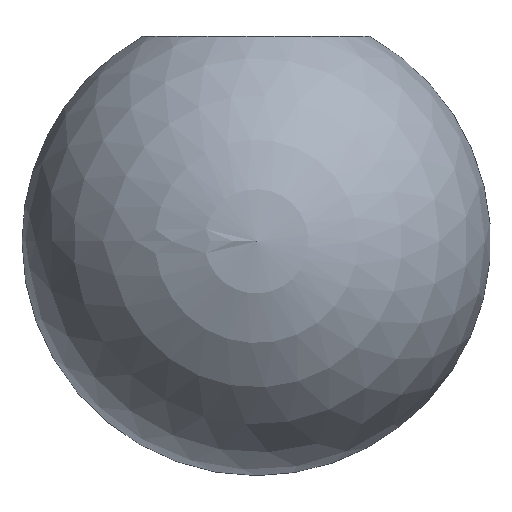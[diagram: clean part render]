
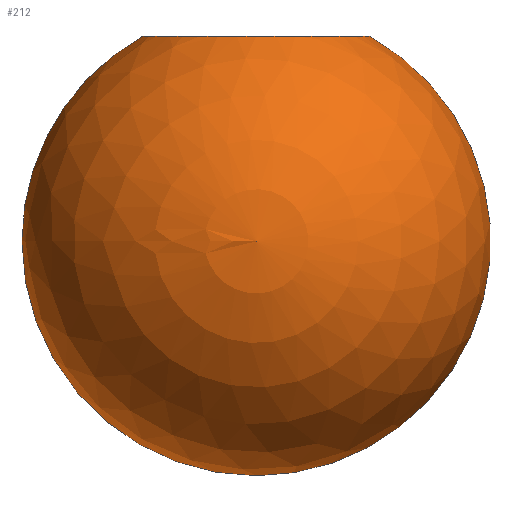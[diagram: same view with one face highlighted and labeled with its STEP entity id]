
A CAD part, left-side view. The second image highlights one B-rep face of the part: STEP entity #212.
In plain terms, the highlighted spherical face has radius 8 mm.
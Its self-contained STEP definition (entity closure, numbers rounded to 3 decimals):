
#1 = VERTEX_POINT ( 'NONE', #405 ) ;
#13 = CARTESIAN_POINT ( 'NONE',  ( 0., 0., -7. ) ) ;
#19 = DIRECTION ( 'NONE',  ( -1., 0., 0. ) ) ;
#38 = CIRCLE ( 'NONE', #416, 8. ) ;
#59 = CIRCLE ( 'NONE', #532, 8. ) ;
#64 = SPHERICAL_SURFACE ( 'NONE', #549, 8. ) ;
#106 = ORIENTED_EDGE ( 'NONE', *, *, #263, .F. ) ;
#115 = EDGE_CURVE ( 'NONE', #530, #1, #59, .T. ) ;
#131 = DIRECTION ( 'NONE',  ( 1., 0., 0. ) ) ;
#141 = DIRECTION ( 'NONE',  ( 0., 0., 1. ) ) ;
#156 = ORIENTED_EDGE ( 'NONE', *, *, #373, .T. ) ;
#188 = DIRECTION ( 'NONE',  ( 0., 1., 0. ) ) ;
#212 = ADVANCED_FACE ( 'NONE', ( #324 ), #64, .T. ) ;
#237 = CARTESIAN_POINT ( 'NONE',  ( 0., 0., -7. ) ) ;
#262 = DIRECTION ( 'NONE',  ( 0., 0., -1. ) ) ;
#263 = EDGE_CURVE ( 'NONE', #1, #336, #528, .T. ) ;
#270 = AXIS2_PLACEMENT_3D ( 'NONE', #514, #141, #329 ) ;
#273 = DIRECTION ( 'NONE',  ( -1., 0., 0. ) ) ;
#324 = FACE_OUTER_BOUND ( 'NONE', #437, .T. ) ;
#329 = DIRECTION ( 'NONE',  ( 1., 0., 0. ) ) ;
#336 = VERTEX_POINT ( 'NONE', #464 ) ;
#373 = EDGE_CURVE ( 'NONE', #530, #336, #38, .T. ) ;
#400 = CARTESIAN_POINT ( 'NONE',  ( 0., 0., -15. ) ) ;
#405 = CARTESIAN_POINT ( 'NONE',  ( 0., 3.873, 0. ) ) ;
#416 = AXIS2_PLACEMENT_3D ( 'NONE', #424, #19, #560 ) ;
#424 = CARTESIAN_POINT ( 'NONE',  ( 0., 0., -7. ) ) ;
#437 = EDGE_LOOP ( 'NONE', ( #569, #156, #106 ) ) ;
#464 = CARTESIAN_POINT ( 'NONE',  ( 0., -3.873, 0. ) ) ;
#514 = CARTESIAN_POINT ( 'NONE',  ( 0., 0., 0. ) ) ;
#528 = CIRCLE ( 'NONE', #270, 3.873 ) ;
#530 = VERTEX_POINT ( 'NONE', #400 ) ;
#532 = AXIS2_PLACEMENT_3D ( 'NONE', #13, #131, #262 ) ;
#549 = AXIS2_PLACEMENT_3D ( 'NONE', #237, #273, #188 ) ;
#560 = DIRECTION ( 'NONE',  ( 0., -1., 0. ) ) ;
#569 = ORIENTED_EDGE ( 'NONE', *, *, #115, .F. ) ;
